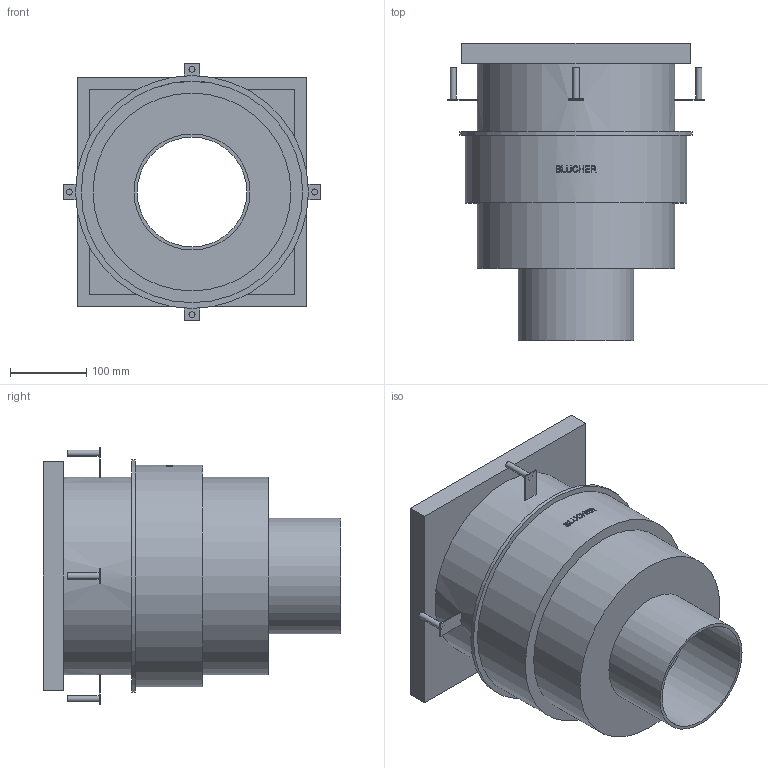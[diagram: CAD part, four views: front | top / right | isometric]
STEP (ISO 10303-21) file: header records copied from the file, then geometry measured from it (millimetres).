
FILE_DESCRIPTION((''),'2;1');
FILE_NAME('C:\Drawings\3D_CAD_Models\Blucher\BFD_Floor Drains_Complete_091119\BFD-200\WebsiteFiles\3D\STEP\BFD-236.stp','2009-11-29T10:37:50',('hofmansp'),(''),'Autodesk Inventor 2010','Autodesk Inventor 2010','');
FILE_SCHEMA(('AUTOMOTIVE_DESIGN { 1 0 10303 214 1 1 1 1 }'));
Length unit declared in the file: inch
Products named in the file (1): BFD-236
Bounding box: 337.09 x 391 x 337.09 mm (x, y, z)
Volume: 2974339.3 mm3; surface area: 789156.9 mm2
Topology: 1 solids, 1 shells, 150 faces, 374 edges, 250 vertices
Faces by surface type: plane 95, bspline 34, cylinder 21
Full cylindrical faces by diameter (mm): 8 x4, 144.4 x1, 152.4 x1, 252 x1, 260 x2, 291 x1, 306 x1
Entity records: 15198 total; most frequent: CARTESIAN_POINT 11906, ORIENTED_EDGE 716, DIRECTION 544, EDGE_CURVE 358, VERTEX_POINT 246, EDGE_LOOP 188, AXIS2_PLACEMENT_3D 182, VECTOR 180
